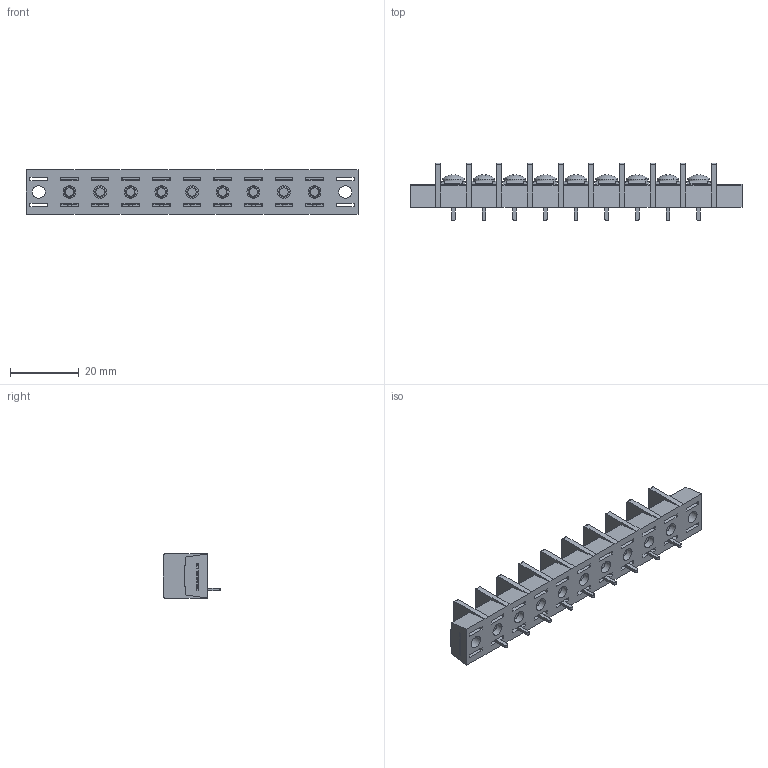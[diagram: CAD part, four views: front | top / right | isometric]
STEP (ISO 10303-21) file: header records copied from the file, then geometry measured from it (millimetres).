
FILE_DESCRIPTION(/* description */ ('Alibre Inc.'),/* implementation_level */ '2;1');
FILE_NAME(/* name */ 'export0',/* time_stamp */ '2015-10-20T08:25:47+09:00',/* author */ (''),/* organization */ (''),/* preprocessor_version */ 'ST-DEVELOPER v14',/* originating_system */ 'Alibre',/* authorisation */ '');
FILE_SCHEMA (('CONFIG_CONTROL_DESIGN'));
Length unit declared in the file: centimetre
Products named in the file (1): ID_1
Bounding box: 96.3 x 16.8 x 12.8 mm (x, y, z)
Volume: 8423.2 mm3; surface area: 10415 mm2
Topology: 1 solids, 154 shells, 2941 faces, 7555 edges, 5000 vertices
Faces by surface type: plane 2201, bspline 572, cylinder 96, cone 45, torus 18, sphere 9
Full cylindrical faces by diameter (mm): 3 x18, 3.7 x11, 4.6 x11, 6.3 x9
Entity records: 85054 total; most frequent: CARTESIAN_POINT 20546, ORIENTED_EDGE 14900, DIRECTION 8928, EDGE_CURVE 7450, VECTOR 5743, LINE 5743, VERTEX_POINT 4971, EDGE_LOOP 3233
